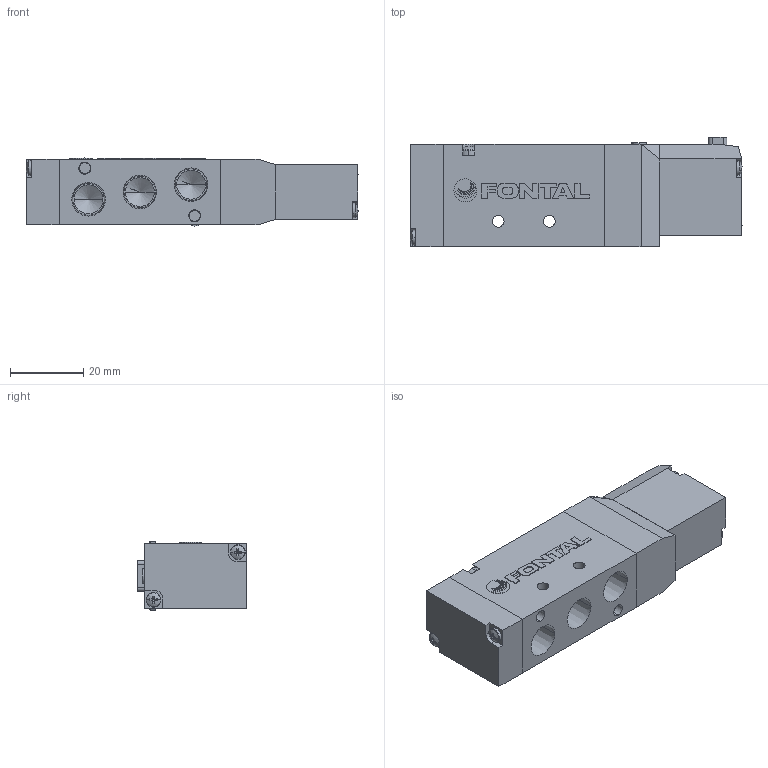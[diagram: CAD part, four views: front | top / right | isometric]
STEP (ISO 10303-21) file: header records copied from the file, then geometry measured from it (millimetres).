
FILE_DESCRIPTION (( 'STEP AP203' ), '1' );
FILE_NAME ('RCS2413-01-#-L-#.STEP', '2016-02-04T05:23:48', ( 'Sam Lin' ), ( '' ), 'SwSTEP 2.0', 'SolidWorks 2013', '' );
FILE_SCHEMA (( 'CONFIG_CONTROL_DESIGN' ));
Length unit declared in the file: metre
Products named in the file (9): PC13-3-3413; PC13-2; ISO 7045 - M2 x 10; PC13-MARK; PC13-5; PC13-6; PC5-6; ISO 7045 - M3 x 20; RCS2413-01-#-L-#
Assembly tree (12 placements, depth 2):
  RCS2413-01-#-L-#
    PC13-3-3413
    PC13-2
    ISO 7045 - M2 x 10  x4
    PC13-MARK
    PC13-5
    PC13-6
    PC5-6
    ISO 7045 - M3 x 20  x2
Bounding box: 90.64 x 30 x 18.6 mm (x, y, z)
Volume: 38127.3 mm3; surface area: 15857.2 mm2
Topology: 18 solids, 18 shells, 483 faces, 1176 edges, 726 vertices
Faces by surface type: plane 263, cylinder 90, cone 86, bspline 44
Entity records: 10493 total; most frequent: CARTESIAN_POINT 2150, ORIENTED_EDGE 1508, DIRECTION 1504, EDGE_CURVE 754, AXIS2_PLACEMENT_3D 528, VERTEX_POINT 486, LINE 448, VECTOR 448
